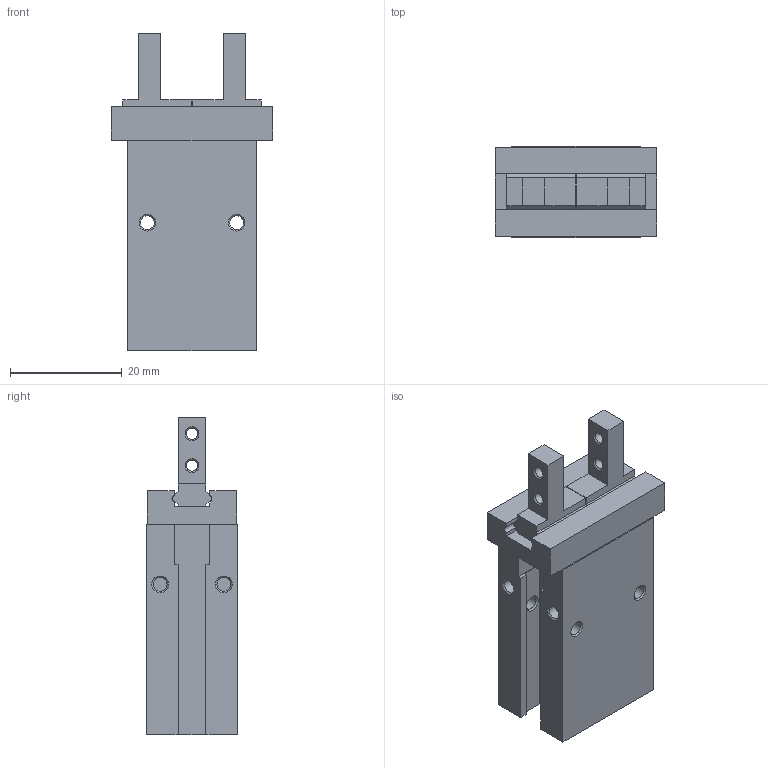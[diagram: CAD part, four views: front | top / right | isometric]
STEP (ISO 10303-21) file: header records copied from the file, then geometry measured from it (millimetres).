
FILE_DESCRIPTION( ( 'STEP AP214' ), '1' );
FILE_NAME( 'F:/CRG-3D-PAN-XU/CRG-chan pin kai fa cun dang - xu/协助/样品整理/平行夹/MHZ2-10D_11.2_0_.stp', '2023-03-07T08:24:19', ( '' ), ( '' ), ' ', 'PARTsolutions', ' ' );
FILE_SCHEMA( ( 'AUTOMOTIVE_DESIGN { 1 0 10303 214 1 1 1 1 }' ) );
Length unit declared in the file: millimetre
Products named in the file (3): MHZ2-10D(11.2_0); _MHZ2-10D_Body(0); _MHZ2-10D_Finger(0)
Assembly tree (3 placements, depth 2):
  MHZ2-10D(11.2_0)
    _MHZ2-10D_Body(0)
    _MHZ2-10D_Finger(0)  x2
Bounding box: 29 x 16.4 x 57 mm (x, y, z)
Volume: 14566.8 mm3; surface area: 7132.2 mm2
Topology: 3 solids, 3 shells, 148 faces, 364 edges, 234 vertices
Faces by surface type: plane 104, cone 22, cylinder 22
Full cylindrical faces by diameter (mm): 2 x1, 2.013 x4, 2.459 x10, 11 x1
Entity records: 4320 total; most frequent: CARTESIAN_POINT 567, DIRECTION 558, ORIENTED_EDGE 516, EDGE_CURVE 258, LINE 204, VECTOR 204, VERTEX_POINT 186, AXIS2_PLACEMENT_3D 177
